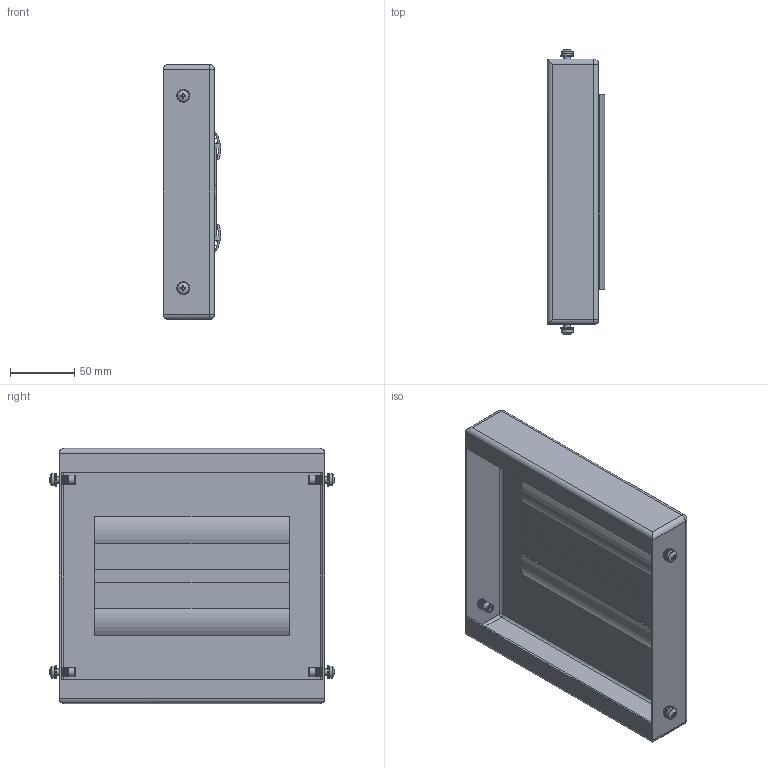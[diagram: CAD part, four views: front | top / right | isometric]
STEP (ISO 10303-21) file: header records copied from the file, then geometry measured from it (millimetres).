
FILE_DESCRIPTION(('STEP AP203'), '1');
FILE_NAME('3998 ÑÁ Áîêîâàÿ ïàíåëü öîêîëÿ', '', ('UNSPECIFIED'), ('UNSPECIFIED'), 'C3D Converter', 'C3D Toolkit', '');
FILE_SCHEMA(('CONFIG_CONTROL_DESIGN'));
Length unit declared in the file: millimetre
Products named in the file (7): 3998.20.40.Щ СБ; 3999
Assembly tree (19 placements, depth 2):
  3998.20.40.Щ СБ
    3999
    (unnamed)  x2
    (unnamed)  x4
    (unnamed)  x4
    (unnamed)  x4
    (unnamed)  x4
Bounding box: 44.83 x 222.28 x 199 mm (x, y, z)
Volume: 178409.9 mm3; surface area: 198694.6 mm2
Topology: 21 solids, 21 shells, 599 faces, 1620 edges, 1076 vertices
Faces by surface type: cylinder 388, plane 159, bspline 16, sphere 12, torus 12, cone 12
Full cylindrical faces by diameter (mm): 4.134 x4, 5 x4, 5.5 x4, 5.8 x4, 6.9 x4, 7.2 x4, 9.5 x4, 10 x4
Entity records: 8185 total; most frequent: CARTESIAN_POINT 2175, DIRECTION 1211, ORIENTED_EDGE 1020, EDGE_CURVE 510, AXIS2_PLACEMENT_3D 486, VERTEX_POINT 339, CIRCLE 263, EDGE_LOOP 243
